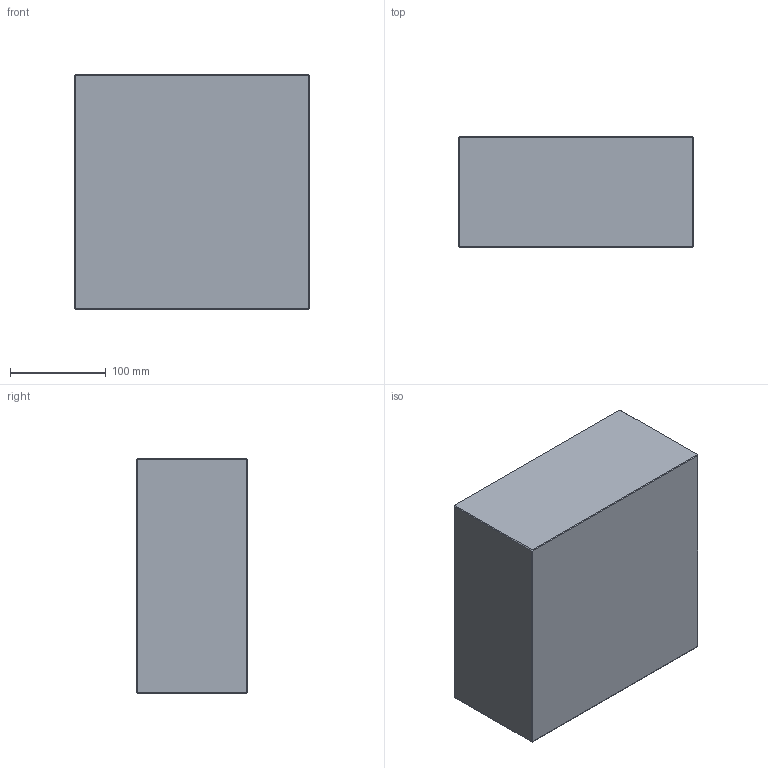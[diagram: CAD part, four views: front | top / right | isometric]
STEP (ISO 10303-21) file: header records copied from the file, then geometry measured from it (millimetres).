
FILE_DESCRIPTION (( 'STEP AP214' ), '1' );
FILE_NAME ('PC-P-246x246x116.STEP', '2020-04-01T08:28:01', ( 'August' ), ( '' ), 'SwSTEP 2.0', 'SolidWorks 2018', '' );
FILE_SCHEMA (( 'AUTOMOTIVE_DESIGN' ));
Length unit declared in the file: millimetre
Products named in the file (1): PC-P-246x246x116
Bounding box: 246 x 116 x 246 mm (x, y, z)
Volume: 7018645.3 mm3; surface area: 233748.4 mm2
Topology: 1 solids, 1 shells, 26 faces, 48 edges, 24 vertices
Faces by surface type: plane 26
Entity records: 634 total; most frequent: DIRECTION 102, CARTESIAN_POINT 99, ORIENTED_EDGE 96, EDGE_CURVE 48, VECTOR 48, LINE 48, AXIS2_PLACEMENT_3D 27, ADVANCED_FACE 26
